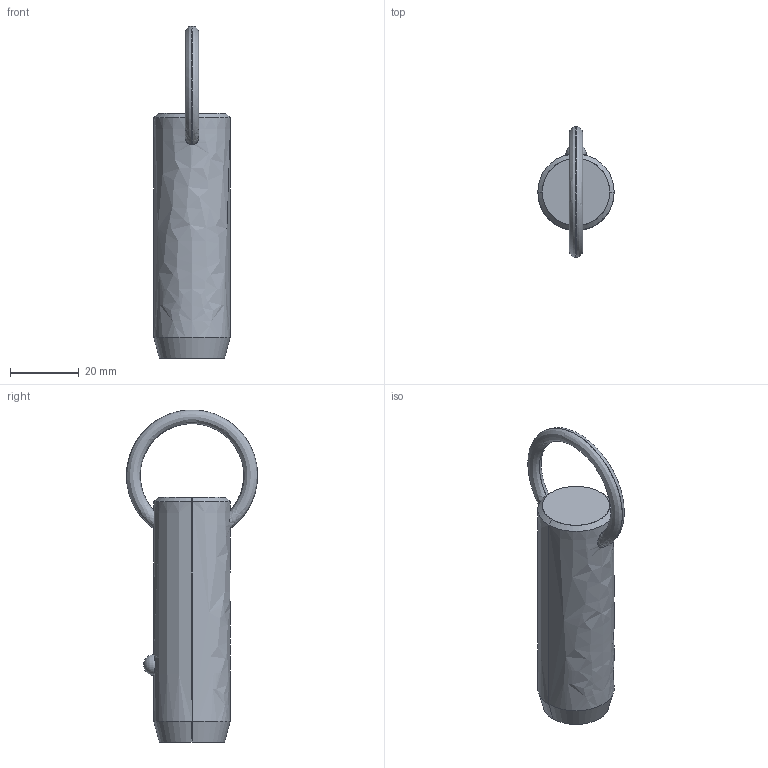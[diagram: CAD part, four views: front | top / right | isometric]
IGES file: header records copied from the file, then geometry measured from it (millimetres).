
Start section: SolidWorks IGES file using analytic representation for surfaces
Global section: file name: C:\Users\liam_\OneDrive\Documents\WORK\Work for WixRoyd\Job Files\J-00019 - Matt Davis CAD Checking\04. CAD Drawings\automotion20190605\P1250.2_v2\P1250.2_v2_20190729_IGES\P1250.087-130.igs; native system: SolidWorks 2017; preprocessor: SolidWorks 2017; author: liam_; date: 190730.000441; units: millimetre
Bounding box: 22.2 x 38.09 x 96.49 mm (x, y, z)
Surface area: 6602.5 mm2 (no closed solid volume)
Topology: 0 solids, 0 shells, 12 faces, 302 edges, 300 vertices
Faces by surface type: revolution 8, bspline 4
